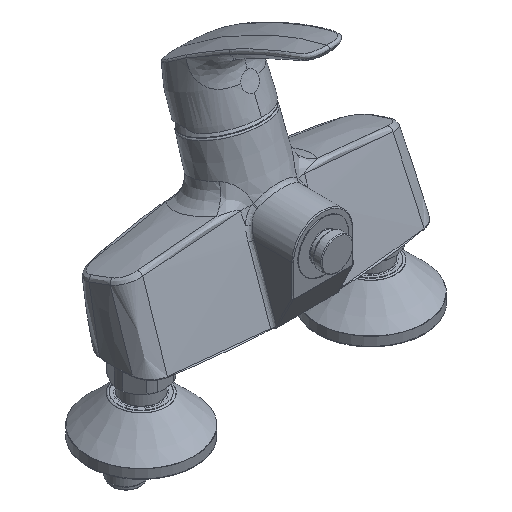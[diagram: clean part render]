
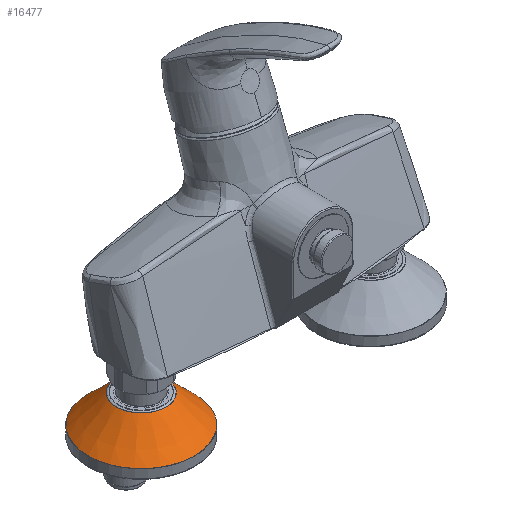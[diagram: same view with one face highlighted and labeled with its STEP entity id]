
A CAD part, isometric view. The second image highlights one B-rep face of the part: STEP entity #16477.
In plain terms, the highlighted conical face has half-angle 45.496 degrees and reference radius 35 mm.
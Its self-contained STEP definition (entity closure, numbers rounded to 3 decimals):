
#168 = DIRECTION ( 'NONE',  ( -1., 0., 0. ) ) ;
#258 = DIRECTION ( 'NONE',  ( 0., 0., -1. ) ) ;
#342 = CARTESIAN_POINT ( 'NONE',  ( -75.143, -0.268, 6. ) ) ;
#497 = VERTEX_POINT ( 'NONE', #3753 ) ;
#950 = EDGE_CURVE ( 'NONE', #16875, #16875, #2819, .T. ) ;
#1214 = ORIENTED_EDGE ( 'NONE', *, *, #950, .F. ) ;
#1599 = EDGE_CURVE ( 'NONE', #497, #497, #18777, .T. ) ;
#1645 = AXIS2_PLACEMENT_3D ( 'NONE', #342, #258, #168 ) ;
#2003 = EDGE_LOOP ( 'NONE', ( #25791 ) ) ;
#2819 = CIRCLE ( 'NONE', #1645, 35. ) ;
#3753 = CARTESIAN_POINT ( 'NONE',  ( -91.395, -0.268, 24.426 ) ) ;
#4105 = FACE_BOUND ( 'NONE', #2003, .T. ) ;
#6925 = AXIS2_PLACEMENT_3D ( 'NONE', #7475, #15562, #19561 ) ;
#7475 = CARTESIAN_POINT ( 'NONE',  ( -75.143, -0.268, 6. ) ) ;
#9027 = FACE_OUTER_BOUND ( 'NONE', #11552, .T. ) ;
#10787 = CARTESIAN_POINT ( 'NONE',  ( -75.143, -0.268, 24.426 ) ) ;
#11552 = EDGE_LOOP ( 'NONE', ( #1214 ) ) ;
#12796 = DIRECTION ( 'NONE',  ( -1., 0., 0. ) ) ;
#13739 = CONICAL_SURFACE ( 'NONE', #6925, 35., 0.794 ) ;
#13996 = CARTESIAN_POINT ( 'NONE',  ( -110.143, -0.268, 6. ) ) ;
#15562 = DIRECTION ( 'NONE',  ( 0., 0., -1. ) ) ;
#16477 = ADVANCED_FACE ( 'NONE', ( #4105, #9027 ), #13739, .T. ) ;
#16875 = VERTEX_POINT ( 'NONE', #13996 ) ;
#18777 = CIRCLE ( 'NONE', #18974, 16.252 ) ;
#18974 = AXIS2_PLACEMENT_3D ( 'NONE', #10787, #24755, #12796 ) ;
#19561 = DIRECTION ( 'NONE',  ( -1., 0., 0. ) ) ;
#24755 = DIRECTION ( 'NONE',  ( 0., 0., -1. ) ) ;
#25791 = ORIENTED_EDGE ( 'NONE', *, *, #1599, .T. ) ;
